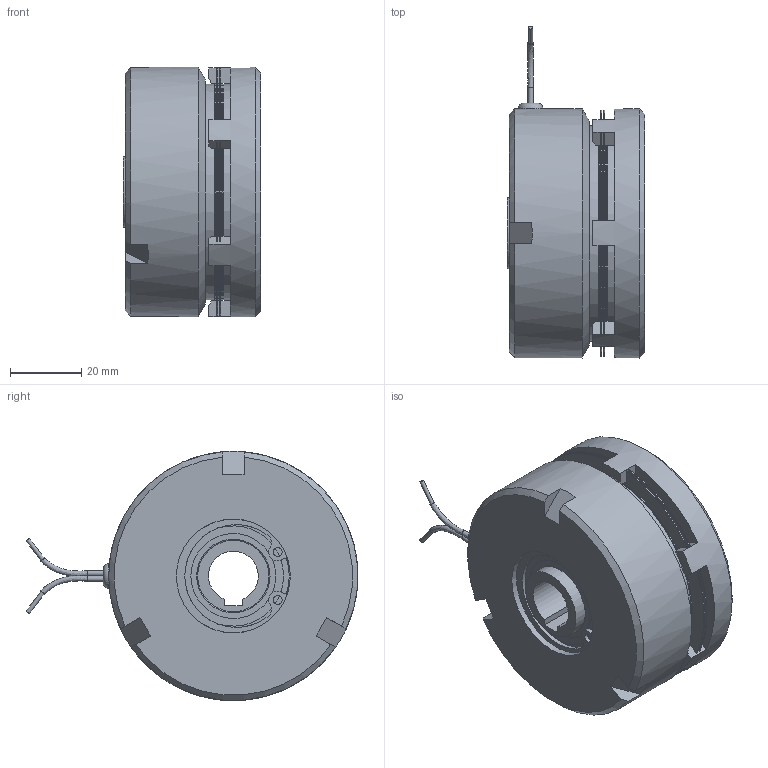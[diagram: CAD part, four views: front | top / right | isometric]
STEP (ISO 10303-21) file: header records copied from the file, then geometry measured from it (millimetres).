
FILE_DESCRIPTION(/* description */ (''),/* implementation_level */ '2;1');
FILE_NAME(/* name */ 'X:\INVENTOR\DISEGNI\05_Friz_Elettmag-Lam\05_05 ESB_S\05_05_070_01 ESB070_S\05_05_070_01 ESB070_S@STEP.stp',/* time_stamp */ '2017-02-17T14:43:27+01:00',/* author */ ('stefano'),/* organization */ (''),/* preprocessor_version */ 'ST-DEVELOPER v16.1',/* originating_system */ 'Autodesk Inventor 2016',/* authorisation */ '');
FILE_SCHEMA (('CONFIG_CONTROL_DESIGN'));
Length unit declared in the file: millimetre
Products named in the file (1): 05_05_070_01 ESB070_S_Substitute_1
Bounding box: 38.5 x 93.22 x 70 mm (x, y, z)
Volume: 115796.7 mm3; surface area: 58079.4 mm2
Topology: 7 solids, 8 shells, 752 faces, 2304 edges, 1493 vertices
Faces by surface type: cylinder 522, plane 174, torus 28, cone 15, sphere 11, bspline 2
Full cylindrical faces by diameter (mm): 1.154 x2, 1.5 x2, 2 x2, 2.5 x2, 6 x1, 20 x2, 23.84 x2, 24 x1, 26 x2, 28.16 x2, 32 x3, 33.7 x1, 60.5 x5, 60.6 x1, 61.5 x1, 70 x2
Entity records: 28102 total; most frequent: CARTESIAN_POINT 5821, DIRECTION 4960, ORIENTED_EDGE 4458, EDGE_CURVE 2216, AXIS2_PLACEMENT_3D 2104, VERTEX_POINT 1458, CIRCLE 1350, EDGE_LOOP 897
